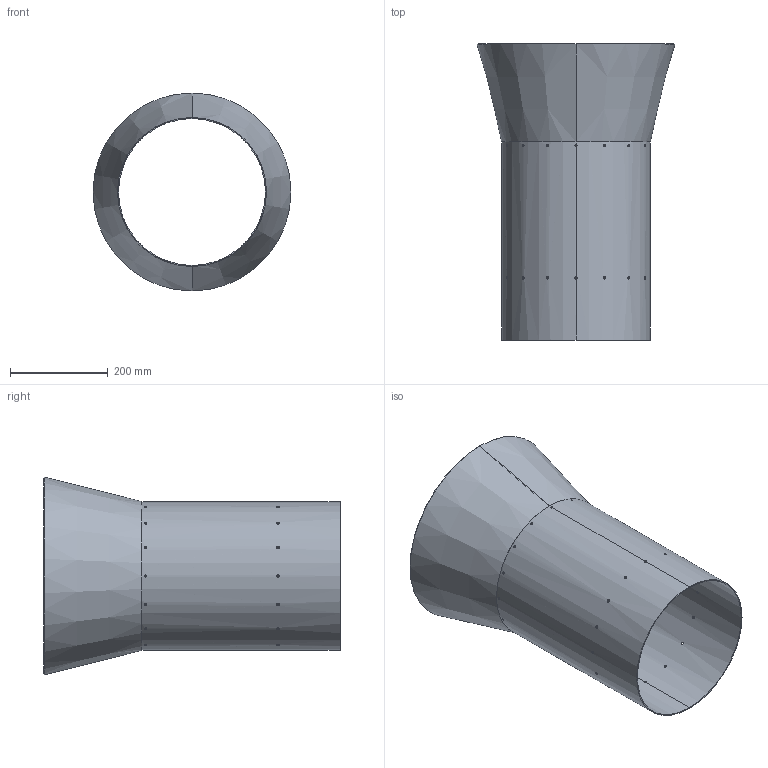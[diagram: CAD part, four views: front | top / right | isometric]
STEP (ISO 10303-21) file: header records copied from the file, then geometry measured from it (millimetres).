
FILE_DESCRIPTION (( 'STEP AP203' ), '1' );
FILE_NAME ('shelter-outside.STEP', '2024-07-01T10:08:30', ( '' ), ( '' ), 'SwSTEP 2.0', 'SolidWorks 2021', '' );
FILE_SCHEMA (( 'CONFIG_CONTROL_DESIGN' ));
Length unit declared in the file: millimetre
Products named in the file (1): shelter-outside
Bounding box: 403.88 x 605 x 403.88 mm (x, y, z)
Volume: 1222825 mm3; surface area: 1228170.7 mm2
Topology: 1 solids, 1 shells, 75 faces, 238 edges, 156 vertices
Faces by surface type: cylinder 68, cone 6, plane 1
Entity records: 6357 total; most frequent: CARTESIAN_POINT 4326, ORIENTED_EDGE 476, DIRECTION 258, EDGE_CURVE 238, VERTEX_POINT 156, B_SPLINE_CURVE_WITH_KNOTS 144, EDGE_LOOP 132, AXIS2_PLACEMENT_3D 88
